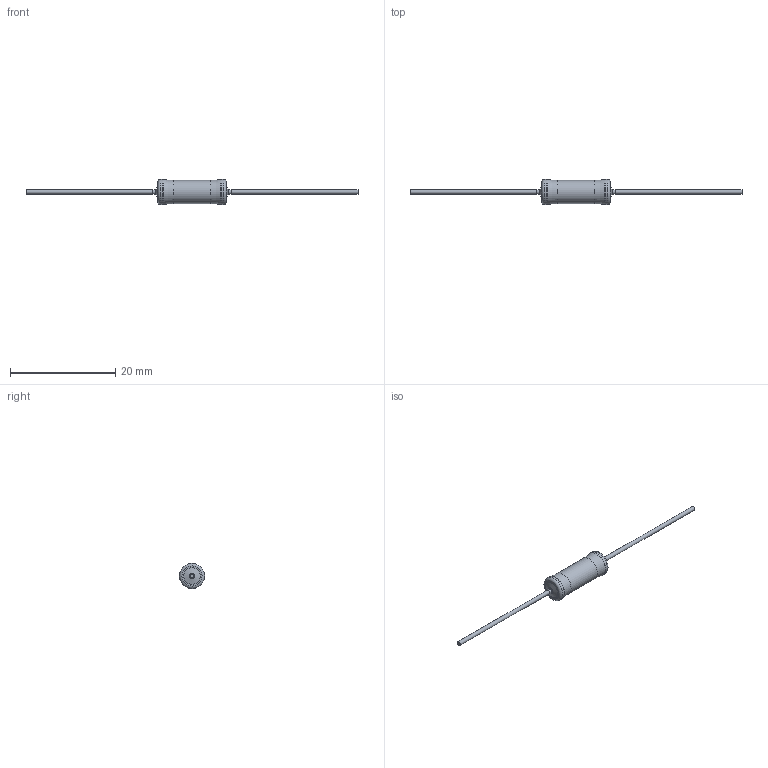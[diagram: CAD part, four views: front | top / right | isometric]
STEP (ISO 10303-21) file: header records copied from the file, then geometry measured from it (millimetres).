
FILE_DESCRIPTION(/* description */ (''),/* implementation_level */ '2;1');
FILE_NAME(/* name */ 'P:\Work\User\Special\CAD\Marketing\PAC02.stp',/* time_stamp */ '2020-02-19T08:50:50+01:00',/* author */ ('klepschi'),/* organization */ (''),/* preprocessor_version */ 'ST-DEVELOPER v16.5',/* originating_system */ 'Autodesk Inventor 2017',/* authorisation */ '');
FILE_SCHEMA (('AUTOMOTIVE_DESIGN { 1 0 10303 214 3 1 1 }'));
Length unit declared in the file: millimetre
Products named in the file (1): PAC02
Bounding box: 63 x 4.8 x 4.8 mm (x, y, z)
Volume: 232.6 mm3; surface area: 338.2 mm2
Topology: 1 solids, 1 shells, 27 faces, 47 edges, 28 vertices
Faces by surface type: cylinder 9, plane 8, torus 8, cone 2
Full cylindrical faces by diameter (mm): 0.798 x2, 0.8 x4, 4.4 x1, 4.8 x2
Entity records: 605 total; most frequent: DIRECTION 108, CARTESIAN_POINT 80, AXIS2_PLACEMENT_3D 54, EDGE_LOOP 52, ORIENTED_EDGE 52, STYLED_ITEM 28, FACE_OUTER_BOUND 27, ADVANCED_FACE 27
